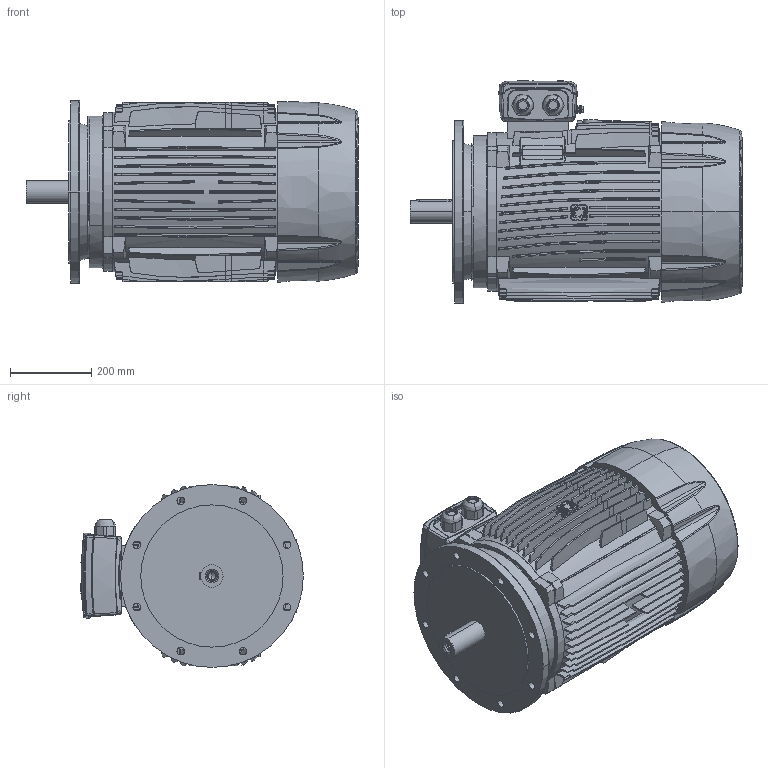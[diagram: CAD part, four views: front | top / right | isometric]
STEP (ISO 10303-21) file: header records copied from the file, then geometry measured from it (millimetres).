
FILE_DESCRIPTION((''),'2;1');
FILE_NAME('225M_ASM','2016-07-21T',('user'),(''),'PRO/ENGINEER BY PARAMETRIC TECHNOLOGY CORPORATION, 2010020','PRO/ENGINEER BY PARAMETRIC TECHNOLOGY CORPORATION, 2010020','');
FILE_SCHEMA(('CONFIG_CONTROL_DESIGN'));
Products named in the file (6): FRA225M; B5225; TBOX225; FCV225; SH225M_2P; 225M_ASM
Assembly tree (5 placements, depth 2):
  225M_ASM
    FRA225M
    B5225
    TBOX225
    FCV225
    SH225M_2P
Bounding box: 817 x 548.06 x 450 mm (x, y, z)
Volume: 97615833.1 mm3; surface area: 3060092.8 mm2
Topology: 5 solids, 17 shells, 2271 faces, 6052 edges, 3936 vertices
Faces by surface type: plane 874, cylinder 672, torus 276, bspline 250, cone 152, extrusion 47
Entity records: 84676 total; most frequent: CARTESIAN_POINT 32856, ORIENTED_EDGE 12052, DIRECTION 8882, EDGE_CURVE 6026, VERTEX_POINT 3936, AXIS2_PLACEMENT_3D 3442, B_SPLINE_CURVE_WITH_KNOTS 2665, EDGE_LOOP 2442
